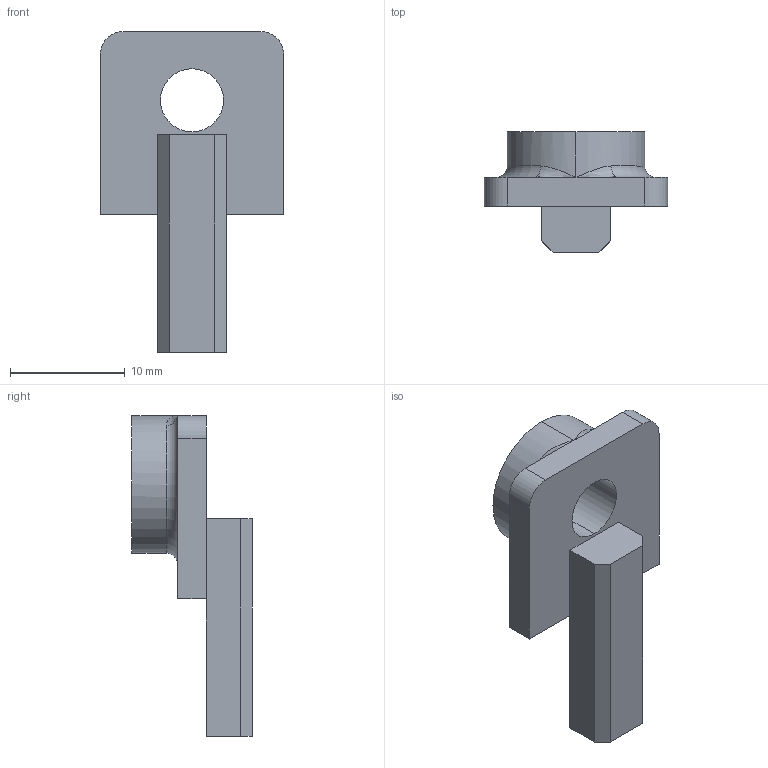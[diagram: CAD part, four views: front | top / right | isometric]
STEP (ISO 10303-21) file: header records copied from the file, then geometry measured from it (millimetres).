
FILE_DESCRIPTION (( 'STEP AP214' ), '1' );
FILE_NAME ('TableHolder.STEP', '2026-04-26T08:16:55', ( '' ), ( '' ), 'SwSTEP 2.0', 'SolidWorks 2010', '' );
FILE_SCHEMA (( 'AUTOMOTIVE_DESIGN' ));
Length unit declared in the file: millimetre
Products named in the file (1): TableHolder
Bounding box: 16 x 10.5 x 28 mm (x, y, z)
Volume: 1378.1 mm3; surface area: 1185.4 mm2
Topology: 1 solids, 1 shells, 25 faces, 64 edges, 39 vertices
Faces by surface type: plane 15, cylinder 6, torus 2, bspline 2
Entity records: 843 total; most frequent: CARTESIAN_POINT 207, DIRECTION 125, ORIENTED_EDGE 124, EDGE_CURVE 62, LINE 43, VECTOR 43, AXIS2_PLACEMENT_3D 41, VERTEX_POINT 39
